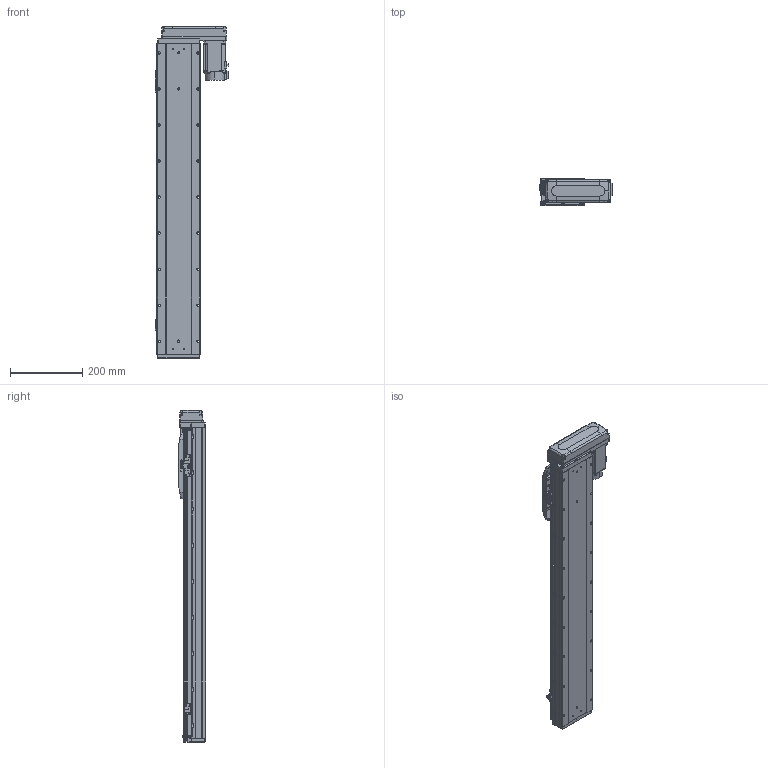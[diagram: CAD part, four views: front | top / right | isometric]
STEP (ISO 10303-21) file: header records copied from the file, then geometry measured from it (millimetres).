
FILE_DESCRIPTION (( 'STEP AP203' ), '1' );
FILE_NAME ('GTH12-650-BL-M40-C4.step', '2025-07-16T03:41:55', ( '' ), ( '' ), 'SwSTEP 2.0', 'SolidWorks 2023', '' );
FILE_SCHEMA (( 'CONFIG_CONTROL_DESIGN' ));
Length unit declared in the file: millimetre
Products named in the file (17): GTH120-003; GBT 70.1-M5×16; 感应器总成左; GTH80-022; GBT 70.3-M3×8; GTH120-004; GTH120-013; GTH120-027-1_GTH120-027-2; GTH120-006; GTH120-001_650; 感应器总成右; GTH12-650-BL-M40-C4; BTH-M3X5X6; GTH80-028; CTHA86-033_M40B; GBT 70.1-M3×6; hg-kn43j_-s100_
Assembly tree (38 placements, depth 2):
  GTH12-650-BL-M40-C4
    GTH120-001_650
    GTH120-003
    GTH120-006
    GTH120-004
    GTH120-013
    GBT 70.1-M3×6  x2
    GBT 70.1-M5×16  x10
    GBT 70.3-M3×8  x4
    GTH80-022
    GTH80-028  x2
    BTH-M3X5X6  x8
    hg-kn43j_-s100_
    CTHA86-033_M40B
    GTH120-027-1_GTH120-027-2
    感应器总成右  x2
    感应器总成左
Bounding box: 203.5 x 76 x 920.5 mm (x, y, z)
Volume: 6854383.8 mm3; surface area: 635856.6 mm2
Topology: 55 solids, 55 shells, 2405 faces, 5650 edges, 3481 vertices
Faces by surface type: plane 1228, cylinder 697, cone 304, torus 162, sphere 8, bspline 6
Entity records: 52784 total; most frequent: CARTESIAN_POINT 9034, DIRECTION 8937, ORIENTED_EDGE 8292, EDGE_CURVE 4146, AXIS2_PLACEMENT_3D 3117, LINE 2703, VECTOR 2703, VERTEX_POINT 2614
